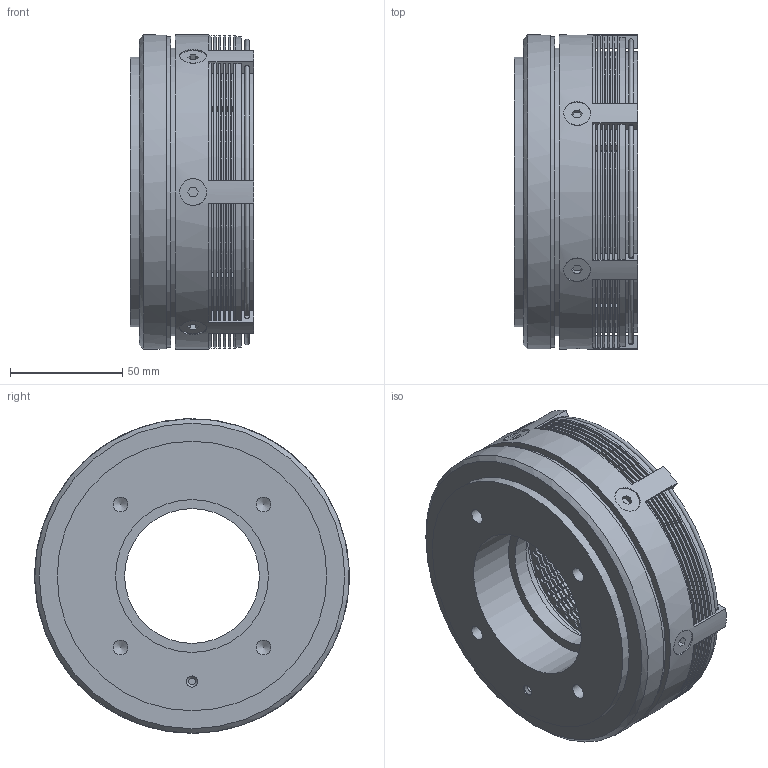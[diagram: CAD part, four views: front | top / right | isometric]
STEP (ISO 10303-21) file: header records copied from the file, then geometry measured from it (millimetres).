
FILE_DESCRIPTION(/* description */ (''),/* implementation_level */ '2;1');
FILE_NAME(/* name */ 'X:\INVENTOR\DISEGNI\05_Friz_Elettmag-Lam\05_02 ECF\05_02_140_01 ECF140\05_02_140_01 ECF140@STEP.stp',/* time_stamp */ '2023-03-03T15:26:31+01:00',/* author */ ('alessio'),/* organization */ (''),/* preprocessor_version */ 'ST-DEVELOPER v18.1',/* originating_system */ 'Autodesk Inventor 2021',/* authorisation */ '');
FILE_SCHEMA (('AUTOMOTIVE_DESIGN { 1 0 10303 214 3 1 1 }'));
Products named in the file (1): 05_02_140_01 ECF140
Bounding box: 55 x 140 x 140 mm (x, y, z)
Volume: 536841.5 mm3; surface area: 254765.7 mm2
Topology: 11 solids, 18 shells, 1680 faces, 4889 edges, 3211 vertices
Faces by surface type: cylinder 1212, plane 442, cone 14, torus 12
Full cylindrical faces by diameter (mm): 2 x4, 3 x1, 4.917 x6, 5 x1, 6 x6, 6.5 x6, 6.647 x4, 12 x6, 60 x1, 68 x1, 70 x2, 89 x1, 91 x1, 96 x1, 100 x1, 110 x1, 111 x1, 120 x2, 123 x1, 125 x2, 128 x2, 138 x1, 140 x2
Entity records: 59690 total; most frequent: CARTESIAN_POINT 10965, DIRECTION 10744, ORIENTED_EDGE 9770, EDGE_CURVE 4885, AXIS2_PLACEMENT_3D 4272, VERTEX_POINT 3211, CIRCLE 2569, LINE 2200
